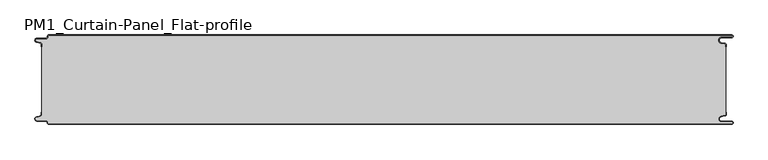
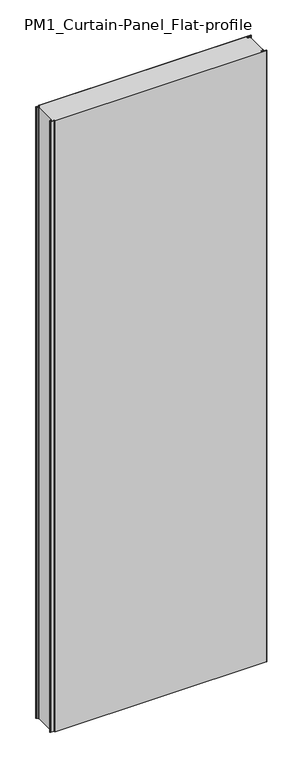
"""IFC4 building model written with IfcOpenShell, lengths in millimetres: plate geometry, PM1_Curtain-Panel_Flat-profile : ACH_PM1_Stone-wool-Panel_150M."""

from ifc_helpers import new_model, si_unit, point, frame_2d, origin, origin_with_axes, place, context, project, spatial, polyline, circle_curve, trimmed, segment, composite_curve, outline, extrude, source, transform, mapped, element, save


def pm1_curtain_panel_flat_profile_005291e4(model_context):
    return source(origin(), model_context, "Body", "SweptSolid", [
        extrude(outline(composite_curve([segment(polyline([(-562.4, 0.0), (583.1, 0.0)]), True, "CONTINUOUS"), segment(trimmed(circle_curve(frame_2d((583.1, -2.5)), 2.5), [point((583.1, 0.0))], [point((583.1, -5.0))], False, "CARTESIAN"), True, "CONTINUOUS"), segment(polyline([(583.1, -5.0), (566.1, -5.0)]), True, "CONTINUOUS"), segment(trimmed(circle_curve(frame_2d((566.1, -9.0)), 4.0), [point((566.1, -5.0))], [point((565.4054075, -12.939231))], True, "CARTESIAN"), True, "CONTINUOUS"), segment(polyline([(565.4054075, -12.939231), (571.8514851, -14.075848)]), True, "CONTINUOUS"), segment(trimmed(circle_curve(frame_2d((571.4, -16.636348)), 2.6), [point((571.8514851, -14.075848))], [point((574.0, -16.636348))], False, "CARTESIAN"), True, "CONTINUOUS"), segment(polyline([(574.0, -16.636348), (574.0, -20.0), (573.2, -20.0), (573.2, -16.636348)]), True, "CONTINUOUS"), segment(trimmed(circle_curve(frame_2d((571.4, -16.636348)), 1.8), [point((573.2, -16.636348))], [point((571.7125666, -14.863694))], True, "CARTESIAN"), True, "CONTINUOUS"), segment(polyline([(571.7125666, -14.863694), (565.266489, -13.7270771)]), True, "CONTINUOUS"), segment(trimmed(circle_curve(frame_2d((566.1, -9.0)), 4.8), [point((565.266489, -13.7270771))], [point((566.1, -4.2))], False, "CARTESIAN"), True, "CONTINUOUS"), segment(polyline([(566.1, -4.2), (583.1, -4.2)]), True, "CONTINUOUS"), segment(trimmed(circle_curve(frame_2d((583.1, -2.5)), 1.7), [point((583.1, -4.2))], [point((583.1, -0.8))], True, "CARTESIAN"), True, "CONTINUOUS"), segment(polyline([(583.1, -0.8), (-562.4, -0.8)]), True, "CONTINUOUS"), segment(trimmed(circle_curve(frame_2d((-562.4, -2.0)), 1.2), [point((-562.4, -0.8))], [point((-563.6, -2.0))], True, "CARTESIAN"), True, "CONTINUOUS"), segment(polyline([(-563.6, -2.0), (-563.6, -3.4)]), True, "CONTINUOUS"), segment(trimmed(circle_curve(frame_2d((-566.4, -3.4)), 2.8), [point((-563.6, -3.4))], [point((-566.4, -6.2))], False, "CARTESIAN"), True, "CONTINUOUS"), segment(polyline([(-566.4, -6.2), (-581.9, -6.2)]), True, "CONTINUOUS"), segment(trimmed(circle_curve(frame_2d((-581.9, -9.0)), 2.8), [point((-581.9, -6.2))], [point((-582.529863, -11.7282362))], True, "CARTESIAN"), True, "CONTINUOUS"), segment(polyline([(-582.529863, -11.7282362), (-576.370137, -13.150321)]), True, "CONTINUOUS"), segment(trimmed(circle_curve(frame_2d((-577.0, -15.878557)), 2.8), [point((-576.370137, -13.150321))], [point((-574.2, -15.878557))], False, "CARTESIAN"), True, "CONTINUOUS"), segment(polyline([(-574.2, -15.878557), (-574.2, -20.0), (-575.0, -20.0), (-575.0, -15.878557)]), True, "CONTINUOUS"), segment(trimmed(circle_curve(frame_2d((-577.0, -15.878557)), 2.0), [point((-575.0, -15.878557))], [point((-576.5500978, -13.9298169))], True, "CARTESIAN"), True, "CONTINUOUS"), segment(polyline([(-576.5500978, -13.9298169), (-582.7098239, -12.507732)]), True, "CONTINUOUS"), segment(trimmed(circle_curve(frame_2d((-581.9, -9.0)), 3.6), [point((-582.7098239, -12.507732))], [point((-581.9, -5.4))], False, "CARTESIAN"), True, "CONTINUOUS"), segment(polyline([(-581.9, -5.4), (-566.4, -5.4)]), True, "CONTINUOUS"), segment(trimmed(circle_curve(frame_2d((-566.4, -3.4)), 2.0), [point((-566.4, -5.4))], [point((-564.4, -3.4))], True, "CARTESIAN"), True, "CONTINUOUS"), segment(polyline([(-564.4, -3.4), (-564.4, -2.0)]), True, "CONTINUOUS"), segment(trimmed(circle_curve(frame_2d((-562.4, -2.0)), 2.0), [point((-564.4, -2.0))], [point((-562.4, 0.0))], False, "CARTESIAN"), True, "CONTINUOUS")], self_intersect=False)), origin_with_axes(), (0.0, 0.0, 1.0), 3500.0),
        extrude(outline(composite_curve([segment(polyline([(-574.2, -134.1214426), (-574.2, -15.8785573)]), True, "CONTINUOUS"), segment(trimmed(circle_curve(frame_2d((-577.0, -15.8785573)), 2.8), [point((-574.2, -15.8785573))], [point((-576.370137, -13.1503212))], True, "CARTESIAN"), True, "CONTINUOUS"), segment(polyline([(-576.370137, -13.1503212), (-582.5298631, -11.7282362)]), True, "CONTINUOUS"), segment(trimmed(circle_curve(frame_2d((-581.9, -9.0)), 2.8), [point((-582.5298631, -11.7282362))], [point((-581.9, -6.2))], False, "CARTESIAN"), True, "CONTINUOUS"), segment(polyline([(-581.9, -6.2), (-566.4000001, -6.2)]), True, "CONTINUOUS"), segment(trimmed(circle_curve(frame_2d((-566.4000001, -3.4)), 2.8), [point((-566.4000001, -6.2))], [point((-563.6000001, -3.4))], True, "CARTESIAN"), True, "CONTINUOUS"), segment(polyline([(-563.6000001, -3.4), (-563.6000001, -2.0)]), True, "CONTINUOUS"), segment(trimmed(circle_curve(frame_2d((-562.4000001, -2.0)), 1.2), [point((-563.6000001, -2.0))], [point((-562.4000001, -0.8))], False, "CARTESIAN"), True, "CONTINUOUS"), segment(polyline([(-562.4000001, -0.8), (583.1, -0.8)]), True, "CONTINUOUS"), segment(trimmed(circle_curve(frame_2d((583.1, -2.5)), 1.7), [point((583.1, -0.8))], [point((583.1, -4.2))], False, "CARTESIAN"), True, "CONTINUOUS"), segment(polyline([(583.1, -4.2), (566.1, -4.2)]), True, "CONTINUOUS"), segment(trimmed(circle_curve(frame_2d((566.1, -9.0)), 4.8), [point((566.1, -4.2))], [point((565.2664883, -13.7270771))], True, "CARTESIAN"), True, "CONTINUOUS"), segment(polyline([(565.2664883, -13.7270771), (571.7125668, -14.8636953)]), True, "CONTINUOUS"), segment(trimmed(circle_curve(frame_2d((571.4, -16.6363492)), 1.8), [point((571.7125668, -14.8636953))], [point((573.2, -16.6363492))], False, "CARTESIAN"), True, "CONTINUOUS"), segment(polyline([(573.2, -16.6363492), (573.2, -133.3636508)]), True, "CONTINUOUS"), segment(trimmed(circle_curve(frame_2d((571.4, -133.3636508)), 1.8), [point((573.2, -133.3636508))], [point((571.7125668, -135.1363047))], False, "CARTESIAN"), True, "CONTINUOUS"), segment(polyline([(571.7125668, -135.1363047), (565.2664883, -136.2729229)]), True, "CONTINUOUS"), segment(trimmed(circle_curve(frame_2d((566.1, -141.0)), 4.8), [point((565.2664883, -136.2729229))], [point((566.1, -145.8))], True, "CARTESIAN"), True, "CONTINUOUS"), segment(polyline([(566.1, -145.8), (583.1, -145.8)]), True, "CONTINUOUS"), segment(trimmed(circle_curve(frame_2d((583.1, -147.5)), 1.7), [point((583.1, -145.8))], [point((583.1, -149.2))], False, "CARTESIAN"), True, "CONTINUOUS"), segment(polyline([(583.1, -149.2), (-562.4000001, -149.2)]), True, "CONTINUOUS"), segment(trimmed(circle_curve(frame_2d((-562.4000001, -148.0)), 1.2), [point((-562.4000001, -149.2))], [point((-563.6000001, -148.0))], False, "CARTESIAN"), True, "CONTINUOUS"), segment(polyline([(-563.6000001, -148.0), (-563.6000001, -146.6)]), True, "CONTINUOUS"), segment(trimmed(circle_curve(frame_2d((-566.4000001, -146.6)), 2.8), [point((-563.6000001, -146.6))], [point((-566.4000001, -143.8))], True, "CARTESIAN"), True, "CONTINUOUS"), segment(polyline([(-566.4000001, -143.8), (-581.9, -143.8)]), True, "CONTINUOUS"), segment(trimmed(circle_curve(frame_2d((-581.9, -141.0)), 2.8), [point((-581.9, -143.8))], [point((-582.5298631, -138.2717638))], False, "CARTESIAN"), True, "CONTINUOUS"), segment(polyline([(-582.5298631, -138.2717638), (-576.370137, -136.8496788)]), True, "CONTINUOUS"), segment(trimmed(circle_curve(frame_2d((-577.0, -134.1214426)), 2.8), [point((-576.370137, -136.8496788))], [point((-574.2, -134.1214426))], True, "CARTESIAN"), True, "CONTINUOUS")], self_intersect=False)), origin_with_axes(), (0.0, 0.0, 1.0), 3500.0),
        extrude(outline(composite_curve([segment(polyline([(583.1, -150.0), (-562.4, -150.0)]), True, "CONTINUOUS"), segment(trimmed(circle_curve(frame_2d((-562.4, -148.0)), 2.0), [point((-562.4, -150.0))], [point((-564.4, -148.0))], False, "CARTESIAN"), True, "CONTINUOUS"), segment(polyline([(-564.4, -148.0), (-564.4, -146.6)]), True, "CONTINUOUS"), segment(trimmed(circle_curve(frame_2d((-566.4, -146.6)), 2.0), [point((-564.4, -146.6))], [point((-566.4, -144.6))], True, "CARTESIAN"), True, "CONTINUOUS"), segment(polyline([(-566.4, -144.6), (-581.9, -144.6)]), True, "CONTINUOUS"), segment(trimmed(circle_curve(frame_2d((-581.9, -141.0)), 3.6), [point((-581.9, -144.6))], [point((-582.7098239, -137.4922678))], False, "CARTESIAN"), True, "CONTINUOUS"), segment(polyline([(-582.7098239, -137.4922678), (-576.5500979, -136.070183)]), True, "CONTINUOUS"), segment(trimmed(circle_curve(frame_2d((-577.0, -134.121443)), 2.0), [point((-576.5500979, -136.070183))], [point((-575.0, -134.121443))], True, "CARTESIAN"), True, "CONTINUOUS"), segment(polyline([(-575.0, -134.121443), (-575.0, -130.0), (-574.2, -130.0), (-574.2, -134.121443)]), True, "CONTINUOUS"), segment(trimmed(circle_curve(frame_2d((-577.0, -134.121443)), 2.8), [point((-574.2, -134.121443))], [point((-576.370137, -136.8496792))], False, "CARTESIAN"), True, "CONTINUOUS"), segment(polyline([(-576.370137, -136.8496792), (-582.529863, -138.271764)]), True, "CONTINUOUS"), segment(trimmed(circle_curve(frame_2d((-581.9, -141.0)), 2.8), [point((-582.529863, -138.271764))], [point((-581.9, -143.8))], True, "CARTESIAN"), True, "CONTINUOUS"), segment(polyline([(-581.9, -143.8), (-566.4, -143.8)]), True, "CONTINUOUS"), segment(trimmed(circle_curve(frame_2d((-566.4, -146.6)), 2.8), [point((-566.4, -143.8))], [point((-563.6, -146.6))], False, "CARTESIAN"), True, "CONTINUOUS"), segment(polyline([(-563.6, -146.6), (-563.6, -148.0)]), True, "CONTINUOUS"), segment(trimmed(circle_curve(frame_2d((-562.4, -148.0)), 1.2), [point((-563.6, -148.0))], [point((-562.4, -149.2))], True, "CARTESIAN"), True, "CONTINUOUS"), segment(polyline([(-562.4, -149.2), (583.1, -149.2)]), True, "CONTINUOUS"), segment(trimmed(circle_curve(frame_2d((583.1, -147.5)), 1.7), [point((583.1, -149.2))], [point((583.1, -145.8))], True, "CARTESIAN"), True, "CONTINUOUS"), segment(polyline([(583.1, -145.8), (566.1, -145.8)]), True, "CONTINUOUS"), segment(trimmed(circle_curve(frame_2d((566.1, -141.0)), 4.8), [point((566.1, -145.8))], [point((565.266489, -136.2729227))], False, "CARTESIAN"), True, "CONTINUOUS"), segment(polyline([(565.266489, -136.2729227), (571.7125666, -135.1363058)]), True, "CONTINUOUS"), segment(trimmed(circle_curve(frame_2d((571.4, -133.363652)), 1.8), [point((571.7125666, -135.1363058))], [point((573.2, -133.363652))], True, "CARTESIAN"), True, "CONTINUOUS"), segment(polyline([(573.2, -133.363652), (573.2, -130.0), (574.0, -130.0), (574.0, -133.363652)]), True, "CONTINUOUS"), segment(trimmed(circle_curve(frame_2d((571.4, -133.363652)), 2.6), [point((574.0, -133.363652))], [point((571.8514851, -135.9241522))], False, "CARTESIAN"), True, "CONTINUOUS"), segment(polyline([(571.8514851, -135.9241522), (565.4054075, -137.0607691)]), True, "CONTINUOUS"), segment(trimmed(circle_curve(frame_2d((566.1, -141.0)), 4.0), [point((565.4054075, -137.0607691))], [point((566.1, -145.0))], True, "CARTESIAN"), True, "CONTINUOUS"), segment(polyline([(566.1, -145.0), (583.1, -145.0)]), True, "CONTINUOUS"), segment(trimmed(circle_curve(frame_2d((583.1, -147.5)), 2.5), [point((583.1, -145.0))], [point((583.1, -150.0))], False, "CARTESIAN"), True, "CONTINUOUS")], self_intersect=False)), origin_with_axes(), (0.0, 0.0, 1.0), 3500.0),
    ])


if __name__ == "__main__":
    model = new_model("IFC4")
    model_context = context("Model", 3, world=origin())
    ifc_project = project(units=[si_unit("LENGTHUNIT", "METRE", prefix="MILLI")], contexts=[model_context])
    site = spatial("IfcSite", under=ifc_project)
    building = spatial("IfcBuilding", under=site)
    placement = place(None, origin())
    pm1_curtain_panel_flat_profile_shape = pm1_curtain_panel_flat_profile_005291e4(model_context)
    element("IfcPlate", 1, ObjectType="PM1_Curtain-Panel_Flat-profile : ACH_PM1_Stone-wool-Panel_150M", at=placement, inside=building, context=model_context, shape_type="MappedRepresentation", body=[
        mapped(pm1_curtain_panel_flat_profile_shape, transform((0.0, 0.0, 0.0), x_axis=(1.0, 0.0, 0.0), y_axis=(0.0, 1.0, 0.0), z_axis=(0.0, 0.0, 1.0))),
    ])
    save(model, "model.ifc")
